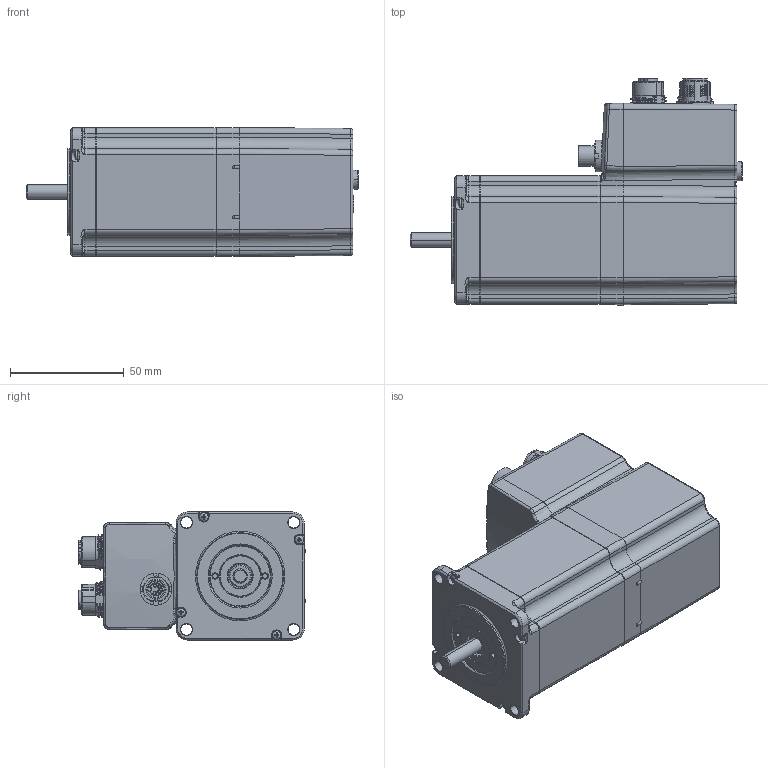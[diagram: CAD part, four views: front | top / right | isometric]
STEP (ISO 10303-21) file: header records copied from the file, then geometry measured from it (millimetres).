
FILE_DESCRIPTION((''),'2;1');
FILE_NAME('STEPPERASSY_ASM','2023-03-22T14:12:44',('Administrator'),(''),'CREO PARAMETRIC BY PTC INC, 2022014','CREO PARAMETRIC BY PTC INC, 2022014','');
FILE_SCHEMA(('AUTOMOTIVE_DESIGN { 1 0 10303 214 1 1 1 1 }'));
Products named in the file (9): FRONT_CAP_1; STATOR; RADIAL_CON; SHAFT_1; LOCK_NUT_1; SEALING_1; STO; FAST_S; STEPPERASSY_ASM
Assembly tree (11 placements, depth 2):
  STEPPERASSY_ASM
    FRONT_CAP_1
    STATOR
    RADIAL_CON
    SHAFT_1
    LOCK_NUT_1
    SEALING_1
    STO
    FAST_S  x4
Bounding box: 145.9 x 99.82 x 56.67 mm (x, y, z)
Volume: 444228.7 mm3; surface area: 64151.9 mm2
Topology: 11 solids, 17 shells, 2331 faces, 5987 edges, 3743 vertices
Faces by surface type: plane 860, cylinder 656, bspline 374, cone 220, torus 185, sphere 34, extrusion 2
Entity records: 132633 total; most frequent: CARTESIAN_POINT 50773, ORIENTED_EDGE 11310, DIRECTION 10233, PRESENTATION_STYLE_ASSIGNMENT 6340, EDGE_CURVE 5657, STYLED_ITEM 5446, CURVE_STYLE 5242, AXIS2_PLACEMENT_3D 3833
